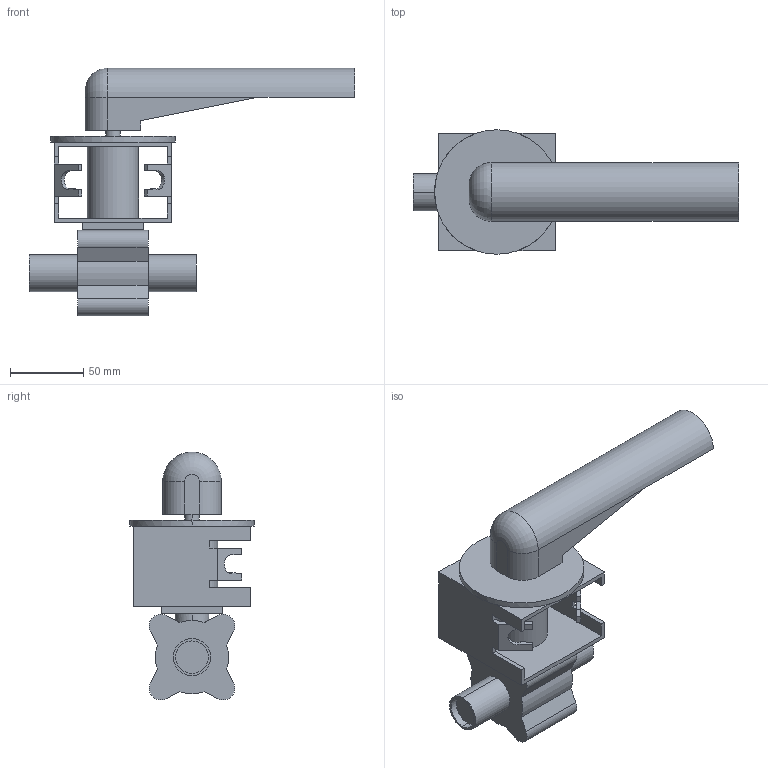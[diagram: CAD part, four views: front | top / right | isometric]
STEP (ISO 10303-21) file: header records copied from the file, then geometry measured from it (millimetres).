
FILE_DESCRIPTION(('Creo Elements/Direct Modeling STEP Export'),'2;1');
FILE_NAME('BLV1-1T-HL-12S.stp','2019-05-10T 8:08:56',(''),(''),'Creo Elements/Direct Modeling STEP processor for AP214 (Solid Model)','Creo Elements/Direct Modeling 19.0F 14-Feb-2017 (C) Parametric Technology GmbH','');
FILE_SCHEMA(('AUTOMOTIVE_DESIGN { 1 0 10303 214 1 1 1 1 }'));
Length unit declared in the file: millimetre
Products named in the file (2): BLV1-1T-HL-12S
Assembly tree (1 placements, depth 2):
  BLV1-1T-HL-12S
    BLV1-1T-HL-12S
Bounding box: 222 x 85 x 169.21 mm (x, y, z)
Volume: 474727.7 mm3; surface area: 93194.5 mm2
Topology: 1 solids, 1 shells, 101 faces, 264 edges, 172 vertices
Faces by surface type: plane 70, cylinder 30, torus 1
Entity records: 2987 total; most frequent: CARTESIAN_POINT 546, ORIENTED_EDGE 528, DIRECTION 461, EDGE_CURVE 264, VECTOR 183, LINE 183, VERTEX_POINT 172, AXIS2_PLACEMENT_3D 139
